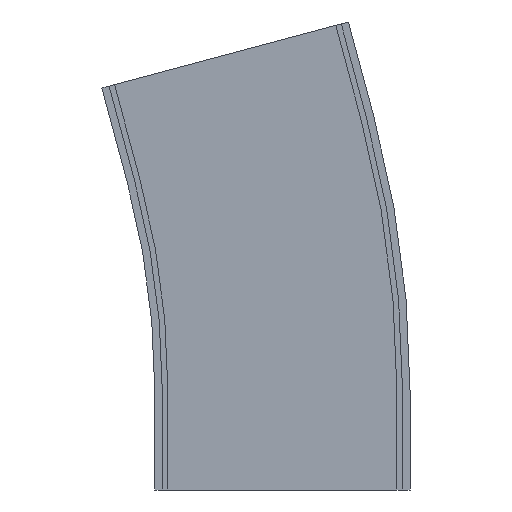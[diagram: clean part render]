
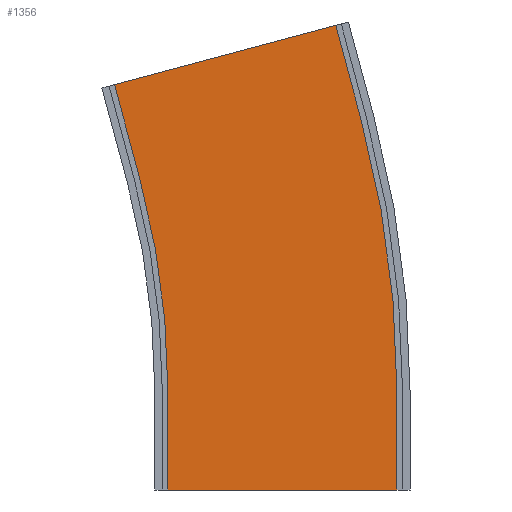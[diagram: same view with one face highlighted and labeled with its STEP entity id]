
A CAD part, left-side view. The second image highlights one B-rep face of the part: STEP entity #1356.
In plain terms, the highlighted planar face has unit normal (-1, 0, 0).
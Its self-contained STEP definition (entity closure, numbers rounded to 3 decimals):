
#8 = DIRECTION ( 'NONE',  ( 0., 0., 1. ) ) ;
#25 = AXIS2_PLACEMENT_3D ( 'NONE', #453, #1084, #8 ) ;
#32 = VECTOR ( 'NONE', #150, 1000. ) ;
#36 = ORIENTED_EDGE ( 'NONE', *, *, #255, .F. ) ;
#38 = VERTEX_POINT ( 'NONE', #1181 ) ;
#46 = DIRECTION ( 'NONE',  ( 0., 0.259, 0.966 ) ) ;
#143 = DIRECTION ( 'NONE',  ( 0., 0., -1. ) ) ;
#146 = CARTESIAN_POINT ( 'NONE',  ( -249.5, -61.25, 52.5 ) ) ;
#150 = DIRECTION ( 'NONE',  ( 0., 0., -1. ) ) ;
#157 = AXIS2_PLACEMENT_3D ( 'NONE', #1244, #702, #1271 ) ;
#164 = LINE ( 'NONE', #659, #694 ) ;
#186 = CIRCLE ( 'NONE', #1090, 561.25 ) ;
#209 = FACE_OUTER_BOUND ( 'NONE', #898, .T. ) ;
#212 = EDGE_CURVE ( 'NONE', #982, #1226, #394, .T. ) ;
#229 = DIRECTION ( 'NONE',  ( -1., 0., 0. ) ) ;
#246 = DIRECTION ( 'NONE',  ( 0., -0.966, 0.259 ) ) ;
#251 = CARTESIAN_POINT ( 'NONE',  ( -249.5, 500., 52.5 ) ) ;
#255 = EDGE_CURVE ( 'NONE', #1045, #1015, #164, .T. ) ;
#278 = VECTOR ( 'NONE', #423, 1000. ) ;
#281 = VECTOR ( 'NONE', #46, 1000. ) ;
#285 = ORIENTED_EDGE ( 'NONE', *, *, #307, .T. ) ;
#307 = EDGE_CURVE ( 'NONE', #982, #38, #449, .T. ) ;
#329 = CARTESIAN_POINT ( 'NONE',  ( -249.5, 89.788, 216.768 ) ) ;
#375 = CARTESIAN_POINT ( 'NONE',  ( -249.5, -42.126, 197.762 ) ) ;
#385 = EDGE_CURVE ( 'NONE', #816, #1030, #499, .T. ) ;
#394 = CIRCLE ( 'NONE', #25, 438.75 ) ;
#423 = DIRECTION ( 'NONE',  ( 0., -1., 0. ) ) ;
#437 = ORIENTED_EDGE ( 'NONE', *, *, #212, .F. ) ;
#449 = LINE ( 'NONE', #583, #32 ) ;
#453 = CARTESIAN_POINT ( 'NONE',  ( -249.5, 500., 52.5 ) ) ;
#462 = EDGE_CURVE ( 'NONE', #1135, #1015, #1254, .T. ) ;
#495 = PLANE ( 'NONE',  #157 ) ;
#499 = LINE ( 'NONE', #992, #856 ) ;
#530 = CARTESIAN_POINT ( 'NONE',  ( -249.5, -61.25, 0. ) ) ;
#583 = CARTESIAN_POINT ( 'NONE',  ( -249.5, 61.25, 52.5 ) ) ;
#586 = CARTESIAN_POINT ( 'NONE',  ( -249.5, 76.2, 166.057 ) ) ;
#598 = LINE ( 'NONE', #530, #278 ) ;
#600 = ORIENTED_EDGE ( 'NONE', *, *, #921, .T. ) ;
#627 = EDGE_CURVE ( 'NONE', #38, #1030, #598, .T. ) ;
#659 = CARTESIAN_POINT ( 'NONE',  ( -249.5, -28.538, 248.473 ) ) ;
#666 = ORIENTED_EDGE ( 'NONE', *, *, #871, .F. ) ;
#681 = DIRECTION ( 'NONE',  ( 0., 0.259, 0.966 ) ) ;
#692 = CARTESIAN_POINT ( 'NONE',  ( -249.5, 76.2, 166.057 ) ) ;
#694 = VECTOR ( 'NONE', #246, 1000. ) ;
#702 = DIRECTION ( 'NONE',  ( 1., 0., 0. ) ) ;
#710 = ORIENTED_EDGE ( 'NONE', *, *, #462, .T. ) ;
#716 = LINE ( 'NONE', #692, #1072 ) ;
#816 = VERTEX_POINT ( 'NONE', #146 ) ;
#856 = VECTOR ( 'NONE', #143, 1000. ) ;
#871 = EDGE_CURVE ( 'NONE', #1226, #1045, #716, .T. ) ;
#898 = EDGE_LOOP ( 'NONE', ( #1107, #967, #600, #710, #36, #666, #437, #285 ) ) ;
#921 = EDGE_CURVE ( 'NONE', #816, #1135, #186, .T. ) ;
#944 = CARTESIAN_POINT ( 'NONE',  ( -249.5, -28.538, 248.473 ) ) ;
#967 = ORIENTED_EDGE ( 'NONE', *, *, #385, .F. ) ;
#982 = VERTEX_POINT ( 'NONE', #1034 ) ;
#992 = CARTESIAN_POINT ( 'NONE',  ( -249.5, -61.25, 52.5 ) ) ;
#1015 = VERTEX_POINT ( 'NONE', #944 ) ;
#1030 = VERTEX_POINT ( 'NONE', #1272 ) ;
#1034 = CARTESIAN_POINT ( 'NONE',  ( -249.5, 61.25, 52.5 ) ) ;
#1045 = VERTEX_POINT ( 'NONE', #329 ) ;
#1072 = VECTOR ( 'NONE', #681, 1000. ) ;
#1084 = DIRECTION ( 'NONE',  ( -1., 0., 0. ) ) ;
#1088 = DIRECTION ( 'NONE',  ( 0., 0., 1. ) ) ;
#1090 = AXIS2_PLACEMENT_3D ( 'NONE', #251, #229, #1088 ) ;
#1107 = ORIENTED_EDGE ( 'NONE', *, *, #627, .T. ) ;
#1135 = VERTEX_POINT ( 'NONE', #375 ) ;
#1181 = CARTESIAN_POINT ( 'NONE',  ( -249.5, 61.25, 0. ) ) ;
#1226 = VERTEX_POINT ( 'NONE', #586 ) ;
#1233 = CARTESIAN_POINT ( 'NONE',  ( -249.5, -42.126, 197.762 ) ) ;
#1244 = CARTESIAN_POINT ( 'NONE',  ( -249.5, -61.25, 52.5 ) ) ;
#1254 = LINE ( 'NONE', #1233, #281 ) ;
#1271 = DIRECTION ( 'NONE',  ( 0., 1., 0. ) ) ;
#1272 = CARTESIAN_POINT ( 'NONE',  ( -249.5, -61.25, 0. ) ) ;
#1356 = ADVANCED_FACE ( 'NONE', ( #209 ), #495, .F. ) ;
